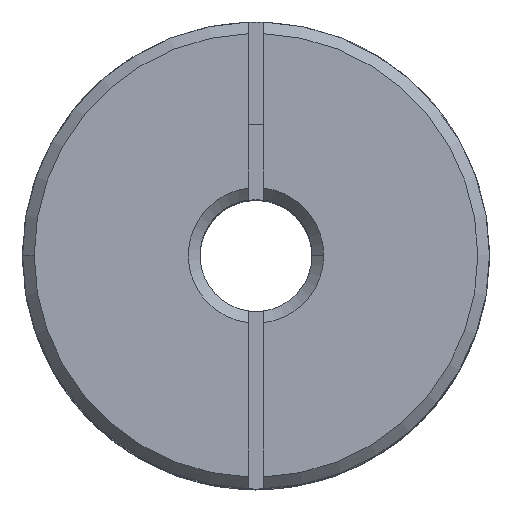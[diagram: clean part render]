
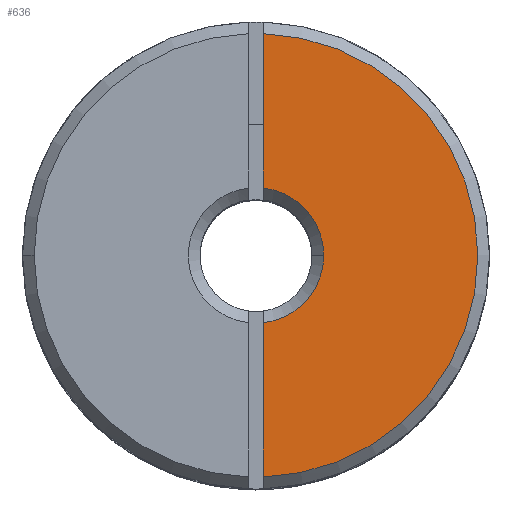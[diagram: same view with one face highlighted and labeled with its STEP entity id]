
A CAD part, top view. The second image highlights one B-rep face of the part: STEP entity #636.
In plain terms, the highlighted planar face has unit normal (0, 0, 1).
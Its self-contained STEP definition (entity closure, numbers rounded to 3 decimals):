
#19 = VERTEX_POINT ( 'NONE', #1514 ) ;
#281 = VERTEX_POINT ( 'NONE', #1955 ) ;
#456 = EDGE_CURVE ( 'NONE', #19, #281, #2500, .T. ) ;
#636 = ADVANCED_FACE ( 'NONE', ( #2941 ), #2940, .T. ) ;
#637 = EDGE_LOOP ( 'NONE', ( #638, #642, #643, #939, #856 ) ) ;
#638 = ORIENTED_EDGE ( 'NONE', *, *, #639, .F. ) ;
#639 = EDGE_CURVE ( 'NONE', #19, #640, #2889, .T. ) ;
#640 = VERTEX_POINT ( 'NONE', #2885 ) ;
#642 = ORIENTED_EDGE ( 'NONE', *, *, #456, .T. ) ;
#643 = ORIENTED_EDGE ( 'NONE', *, *, #644, .T. ) ;
#644 = EDGE_CURVE ( 'NONE', #281, #645, #2884, .T. ) ;
#645 = VERTEX_POINT ( 'NONE', #2879 ) ;
#850 = EDGE_CURVE ( 'NONE', #1073, #640, #3410, .T. ) ;
#856 = ORIENTED_EDGE ( 'NONE', *, *, #850, .T. ) ;
#939 = ORIENTED_EDGE ( 'NONE', *, *, #1072, .F. ) ;
#1072 = EDGE_CURVE ( 'NONE', #1073, #645, #3782, .T. ) ;
#1073 = VERTEX_POINT ( 'NONE', #3778 ) ;
#1514 = CARTESIAN_POINT ( 'NONE',  ( 0.781, 7.208, 71. ) ) ;
#1955 = CARTESIAN_POINT ( 'NONE',  ( 7.25, 0., 71. ) ) ;
#2496 = DIRECTION ( 'NONE',  ( 1., 0., 0. ) ) ;
#2497 = DIRECTION ( 'NONE',  ( 0., 0., -1. ) ) ;
#2498 = CARTESIAN_POINT ( 'NONE',  ( 0., 0., 71. ) ) ;
#2499 = AXIS2_PLACEMENT_3D ( 'NONE', #2498, #2497, #2496 ) ;
#2500 = CIRCLE ( 'NONE', #2499, 7.25 ) ;
#2879 = CARTESIAN_POINT ( 'NONE',  ( 0.781, -7.208, 71. ) ) ;
#2880 = DIRECTION ( 'NONE',  ( 1., 0., 0. ) ) ;
#2881 = DIRECTION ( 'NONE',  ( 0., 0., -1. ) ) ;
#2882 = CARTESIAN_POINT ( 'NONE',  ( 0., 0., 71. ) ) ;
#2883 = AXIS2_PLACEMENT_3D ( 'NONE', #2882, #2881, #2880 ) ;
#2884 = CIRCLE ( 'NONE', #2883, 7.25 ) ;
#2885 = CARTESIAN_POINT ( 'NONE',  ( 0.781, 23.737, 71. ) ) ;
#2886 = DIRECTION ( 'NONE',  ( 0., 1., 0. ) ) ;
#2887 = VECTOR ( 'NONE', #2886, 1000. ) ;
#2888 = CARTESIAN_POINT ( 'NONE',  ( 0.781, 24.988, 71. ) ) ;
#2889 = LINE ( 'NONE', #2888, #2887 ) ;
#2890 = DIRECTION ( 'NONE',  ( 1., 0., 0. ) ) ;
#2891 = DIRECTION ( 'NONE',  ( 0., 0., 1. ) ) ;
#2892 = CARTESIAN_POINT ( 'NONE',  ( 0., 0., 71. ) ) ;
#2893 = AXIS2_PLACEMENT_3D ( 'NONE', #2892, #2891, #2890 ) ;
#2940 = PLANE ( 'NONE',  #2893 ) ;
#2941 = FACE_OUTER_BOUND ( 'NONE', #637, .T. ) ;
#3406 = DIRECTION ( 'NONE',  ( 1., 0., 0. ) ) ;
#3407 = DIRECTION ( 'NONE',  ( 0., 0., 1. ) ) ;
#3408 = CARTESIAN_POINT ( 'NONE',  ( 0., 0., 71. ) ) ;
#3409 = AXIS2_PLACEMENT_3D ( 'NONE', #3408, #3407, #3406 ) ;
#3410 = CIRCLE ( 'NONE', #3409, 23.75 ) ;
#3778 = CARTESIAN_POINT ( 'NONE',  ( 0.781, -23.737, 71. ) ) ;
#3779 = DIRECTION ( 'NONE',  ( 0., 1., 0. ) ) ;
#3780 = VECTOR ( 'NONE', #3779, 1000. ) ;
#3781 = CARTESIAN_POINT ( 'NONE',  ( 0.781, 24.988, 71. ) ) ;
#3782 = LINE ( 'NONE', #3781, #3780 ) ;
